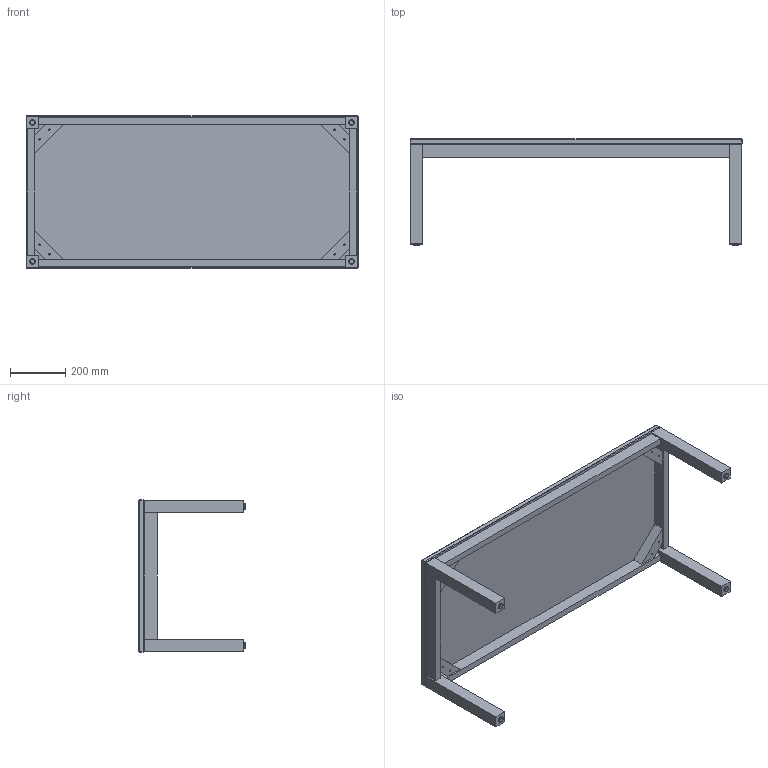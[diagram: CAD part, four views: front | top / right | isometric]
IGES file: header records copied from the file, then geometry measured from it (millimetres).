
Start section: SolidWorks IGES file using analytic representation for surfaces
Global section: file name: L:\DEVELOPMENT DPT\LYNDON SW\Arthur\COFFEE TABLE\ADMIN\3D\ART_COFFEE_TABLE.IGS; native system: SolidWorks 2012; preprocessor: SolidWorks 2012; author: tom; date: 161003.100501; units: millimetre
Bounding box: 1200 x 385 x 550 mm (x, y, z)
Surface area: 3449102.9 mm2 (no closed solid volume)
Topology: 0 solids, 0 shells, 324 faces, 3128 edges, 3128 vertices
Faces by surface type: bspline 236, revolution 88
